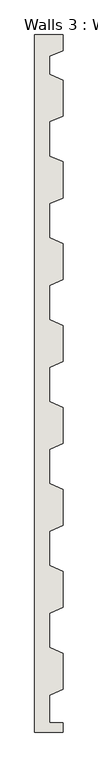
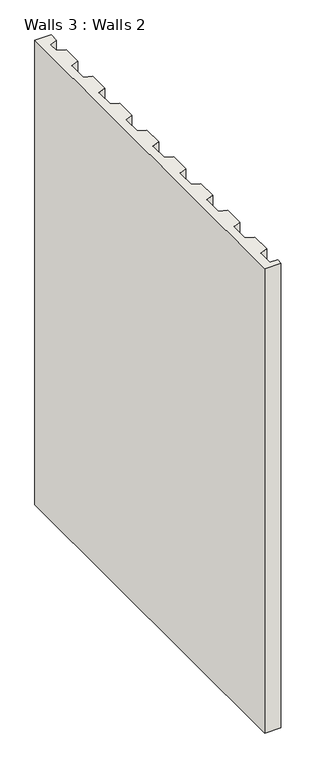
"""IFC4 building model written with IfcOpenShell, lengths in millimetres: wall geometry, Walls 3 : Walls 2."""

import ifcopenshell
import ifcopenshell.guid

model = None  # the IFC model being written
_history = None  # IfcOwnerHistory: only IFC2X3 demands one
_inside = {}  # id of a spatial element -> (the spatial element, [elements in it])
_under = {}  # id of a project, library or spatial element -> (it, [spatial elements below it])
_declared = {}  # id of a project -> (the project, [libraries it declares])
_typed = {}  # id of a type object -> (the type object, [elements of that type])
_made_of = {}  # id of a material, layer set ... -> (it, [elements and type objects made of it])


def new_model(schema):
    """Start an empty IFC model of exactly this schema.

    Asked for "IFC4X3", IfcOpenShell would pick the latest addendum, in which some entities
    have other attributes; the version numbers below select the first issue.
    IFC2X3 requires an IfcOwnerHistory on every rooted entity: one is made here for all.
    """
    global model, _history
    if schema == "IFC4X3":
        model = ifcopenshell.file(schema_version=(4, 3, 0, 0))
    else:
        model = ifcopenshell.file(schema=schema)
    _inside.clear()
    _under.clear()
    _declared.clear()
    _typed.clear()
    _made_of.clear()
    _history = None
    if model.schema == "IFC2X3":
        org = make("IfcOrganization", Name="unknown")
        user = make(
            "IfcPersonAndOrganization",
            ThePerson=make("IfcPerson", FamilyName="unknown"),
            TheOrganization=org,
        )
        app = make(
            "IfcApplication",
            ApplicationDeveloper=org,
            Version="unknown",
            ApplicationFullName="unknown",
            ApplicationIdentifier="unknown",
        )
        _history = make(
            "IfcOwnerHistory",
            OwningUser=user,
            OwningApplication=app,
            ChangeAction="ADDED",
            CreationDate=0,
        )
    return model


def make(cls, **values):
    """One entity of the class cls with the attributes given. An attribute that is None is left unset."""
    return model.create_entity(
        cls, **{name: value for name, value in values.items() if value is not None}
    )


def rooted(cls, **values):
    """An entity with a GlobalId (a new one), such as an element, a storey or a relation."""
    return make(cls, GlobalId=ifcopenshell.guid.new(), OwnerHistory=_history, **values)


def si_unit(unit_type, name, prefix=None):
    """IfcSIUnit, for example si_unit("LENGTHUNIT", "METRE", prefix="MILLI")."""
    return make("IfcSIUnit", UnitType=unit_type, Prefix=prefix, Name=name)


def assignment(units):
    """IfcUnitAssignment: the units of a project."""
    return None if units is None else make("IfcUnitAssignment", Units=units)


def point(xyz):
    """IfcCartesianPoint."""
    return None if xyz is None else make("IfcCartesianPoint", Coordinates=xyz)


def direction(xyz):
    """IfcDirection."""
    return None if xyz is None else make("IfcDirection", DirectionRatios=xyz)


def frame(location, z_axis=None, x_axis=None):
    """IfcAxis2Placement3D, a coordinate frame: its origin and axes. An axis left out is left unset."""
    return make(
        "IfcAxis2Placement3D",
        Location=point(location),
        Axis=direction(z_axis),
        RefDirection=direction(x_axis),
    )


def origin():
    """The frame at (0, 0, 0) with its axes left unset."""
    return frame((0.0, 0.0, 0.0))


def place(relative_to, where):
    """IfcLocalPlacement: puts the frame where relative to a parent placement (None: the world)."""
    return make(
        "IfcLocalPlacement", PlacementRelTo=relative_to, RelativePlacement=where
    )


def context(
    kind, dimensions, precision=None, world=None, true_north=None, identifier=None
):
    """IfcGeometricRepresentationContext, for example the 3D "Model" context."""
    return make(
        "IfcGeometricRepresentationContext",
        ContextIdentifier=identifier,
        ContextType=kind,
        CoordinateSpaceDimension=dimensions,
        Precision=precision,
        WorldCoordinateSystem=world,
        TrueNorth=true_north,
    )


def project(units=None, contexts=None):
    """IfcProject with its units and contexts."""
    return rooted(
        "IfcProject",
        Name="project",
        RepresentationContexts=contexts,
        UnitsInContext=assignment(units),
    )


def spatial(cls, under=None, at=None, **own):
    """A site, building, storey or space (cls), placed at a placement, below another one or the project."""
    s = rooted(cls, ObjectPlacement=at, **own)
    if under is not None:
        _under.setdefault(under.id(), (under, []))[1].append(s)
    return s


def polyline(points):
    """IfcPolyline through the points."""
    return make("IfcPolyline", Points=[point(p) for p in points])


def outline(outer, holes=None, kind="AREA"):
    """IfcArbitraryClosedProfileDef: a profile drawn as a closed curve; with holes, ...WithVoids."""
    if holes is None:
        return make("IfcArbitraryClosedProfileDef", ProfileType=kind, OuterCurve=outer)
    return make(
        "IfcArbitraryProfileDefWithVoids",
        ProfileType=kind,
        OuterCurve=outer,
        InnerCurves=holes,
    )


def extrude(swept, where, along, depth):
    """IfcExtrudedAreaSolid: the profile swept, set in the frame where, extruded along a direction by depth."""
    return make(
        "IfcExtrudedAreaSolid",
        SweptArea=swept,
        Position=where,
        ExtrudedDirection=direction(along),
        Depth=depth,
    )


def shape(context_of_items, identifier, shape_type, items):
    """IfcShapeRepresentation: the items that make up one representation, for example the "Body"."""
    return make(
        "IfcShapeRepresentation",
        ContextOfItems=context_of_items,
        RepresentationIdentifier=identifier,
        RepresentationType=shape_type,
        Items=items,
    )


def source(mapping_origin, context_of_items, identifier, shape_type, items):
    """IfcRepresentationMap: a shape defined once, which mapped items show again and again."""
    return make(
        "IfcRepresentationMap",
        MappingOrigin=mapping_origin,
        MappedRepresentation=shape(context_of_items, identifier, shape_type, items),
    )


def transform(
    local_origin,
    x_axis=None,
    y_axis=None,
    z_axis=None,
    scale=None,
    scale2=None,
    scale3=None,
    uniform=True,
):
    """IfcCartesianTransformationOperator3D, or its non-uniform kind. x_axis, y_axis, z_axis: its Axis1, 2, 3."""
    if uniform:
        return make(
            "IfcCartesianTransformationOperator3D",
            Axis1=direction(x_axis),
            Axis2=direction(y_axis),
            LocalOrigin=point(local_origin),
            Scale=scale,
            Axis3=direction(z_axis),
        )
    return make(
        "IfcCartesianTransformationOperator3DnonUniform",
        Axis1=direction(x_axis),
        Axis2=direction(y_axis),
        LocalOrigin=point(local_origin),
        Scale=scale,
        Axis3=direction(z_axis),
        Scale2=scale2,
        Scale3=scale3,
    )


def mapped(mapping_source, mapping_target):
    """IfcMappedItem: shows the shape of a source again, moved by a transform."""
    return make(
        "IfcMappedItem", MappingSource=mapping_source, MappingTarget=mapping_target
    )


def made_of(thing, what):
    """Note that an element or type object is made of a material, layer set ...; save() writes the relation."""
    if what is not None:
        _made_of.setdefault(what.id(), (what, []))[1].append(thing)
    return thing


def element(
    cls,
    number,
    at=None,
    inside=None,
    cuts=None,
    type_object=None,
    material=None,
    context=None,
    identifier="Body",
    shape_type=None,
    held_by="IfcProductDefinitionShape",
    body=None,
    shapes=None,
    **own,
):
    """One element of the class cls, such as IfcWall. Its Tag is "e" and its number.

    at: its placement. inside: the storey or other place that contains it. cuts: it is an
    opening in that element (IfcRelVoidsElement). A single representation is given by context,
    identifier, shape_type and body (its items); several are given by shapes. held_by: the class
    of the entity that holds the representations. save() writes the other relations.
    """
    e = rooted(cls, Tag="e%d" % number, ObjectPlacement=at, **own)
    if body is not None:
        shapes = [shape(context, identifier, shape_type, body)]
    if shapes is not None:
        e.Representation = make(held_by, Representations=shapes)
    if inside is not None:
        _inside.setdefault(inside.id(), (inside, []))[1].append(e)
    if cuts is not None:
        rooted(
            "IfcRelVoidsElement", RelatingBuildingElement=cuts, RelatedOpeningElement=e
        )
    if type_object is not None:
        _typed.setdefault(type_object.id(), (type_object, []))[1].append(e)
    return made_of(e, material)


def aggregate(whole, parts):
    """IfcRelAggregates: a whole, such as a stair, and the parts it consists of."""
    return rooted("IfcRelAggregates", RelatingObject=whole, RelatedObjects=parts)


def save(model, path):
    """Write the relations noted so far, then the file.

    IfcRelAggregates (storeys below a building ...), IfcRelContainedInSpatialStructure (elements
    in a storey), IfcRelDefinesByType, IfcRelAssociatesMaterial and IfcRelDeclares: one each for
    every whole, place, type object, material and project.
    """
    for whole, parts in _under.values():
        aggregate(whole, parts)
    for where, things in _inside.values():
        rooted(
            "IfcRelContainedInSpatialStructure",
            RelatedElements=things,
            RelatingStructure=where,
        )
    for kind, things in _typed.values():
        rooted("IfcRelDefinesByType", RelatedObjects=things, RelatingType=kind)
    for what, things in _made_of.values():
        rooted("IfcRelAssociatesMaterial", RelatedObjects=things, RelatingMaterial=what)
    for by, libraries in _declared.values():
        rooted("IfcRelDeclares", RelatingContext=by, RelatedDefinitions=libraries)
    model.write(path)


def walls_3_walls_2_973bfb74(model_context):
    return source(origin(), model_context, "Body", "SweptSolid", [
        extrude(outline(polyline([(1785.8997533, -2819.7772175), (1785.8997533, -689.9285403), (1872.8997551, -689.9285403), (1872.8997551, -737.5653827), (1830.8997551, -755.5653827), (1830.8997551, -809.5653808), (1872.8997533, -827.5653903), (1872.8997533, -937.5653803), (1830.8997551, -955.5653795), (1830.8997551, -1059.5653776), (1872.8997533, -1077.5653872), (1872.8997533, -1187.5653771), (1830.8997551, -1205.5653763), (1830.8997551, -1309.5653744), (1872.8997533, -1327.565384), (1872.8997533, -1437.5653739), (1830.8997551, -1455.5653731), (1830.8997551, -1559.5653712), (1872.8997533, -1577.5653808), (1872.8997533, -1687.5653707), (1830.8997551, -1705.5653699), (1830.8997551, -1809.565368), (1872.8997533, -1827.5653776), (1872.8997533, -1937.5653676), (1830.8997551, -1955.5653668), (1830.8997551, -2059.5653648), (1872.8997533, -2077.5653744), (1872.8997533, -2187.5653644), (1830.8997551, -2205.5653636), (1830.8997551, -2309.5653617), (1872.8997533, -2327.5653712), (1872.8997533, -2437.5653612), (1830.8997551, -2455.5653604), (1830.8997551, -2559.5653585), (1872.8997533, -2577.5653681), (1872.8997533, -2687.565358), (1830.8997551, -2705.5653585), (1830.8997545, -2774.5653607), (1830.8997545, -2789.5653608), (1872.8997533, -2789.5653608), (1872.8997533, -2819.7772175), (1785.8997533, -2819.7772175)])), frame((0.0, 0.0, 411.0000054), z_axis=(0.0, 0.0, 1.0), x_axis=(1.0, 0.0, 0.0)), (0.0, 0.0, 1.0), 2628.9999861),
    ])


if __name__ == "__main__":
    model = new_model("IFC4")
    model_context = context("Model", 3, world=origin())
    ifc_project = project(units=[si_unit("LENGTHUNIT", "METRE", prefix="MILLI")], contexts=[model_context])
    site = spatial("IfcSite", under=ifc_project)
    building = spatial("IfcBuilding", under=site)
    placement = place(None, origin())
    walls_3_walls_2_shape = walls_3_walls_2_973bfb74(model_context)
    element("IfcWall", 1, ObjectType="Walls 3 : Walls 2", at=placement, inside=building, context=model_context, shape_type="MappedRepresentation", body=[
        mapped(walls_3_walls_2_shape, transform((0.0, 0.0, 0.0), x_axis=(1.0, 0.0, 0.0), y_axis=(0.0, 1.0, 0.0), z_axis=(0.0, 0.0, 1.0))),
    ])
    save(model, "model.ifc")
